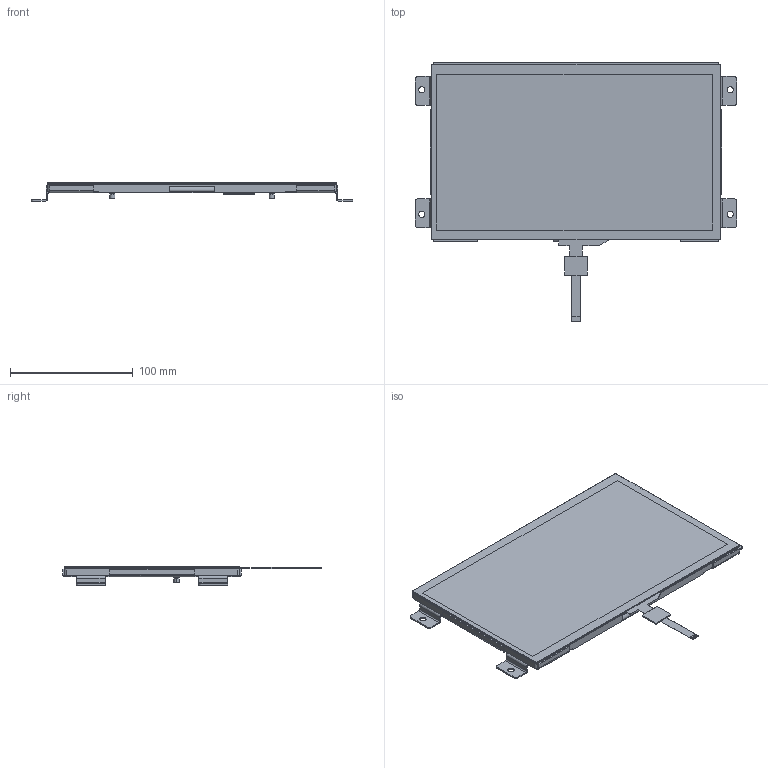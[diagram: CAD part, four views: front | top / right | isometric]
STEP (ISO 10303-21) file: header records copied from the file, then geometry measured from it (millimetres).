
FILE_DESCRIPTION (( 'STEP AP214' ), '1' );
FILE_NAME ('NHD-10.1-1024600MB-xxxx-CTP.STEP', '2018-02-27T20:26:57', ( '' ), ( '' ), 'SwSTEP 2.0', 'SolidWorks 2018', '' );
FILE_SCHEMA (( 'AUTOMOTIVE_DESIGN' ));
Length unit declared in the file: millimetre
Products named in the file (12): BSO4-M3-6; NHD-10.1-B; NHD-10.1-1024600MB-xxxx-CTP; NHD-CTP-10.1; ADS; Sensor; LOCA; Cover; NHD-10.1-1024600AF-LSXV; 541044031; NHD-10.1-1024600AF-Display; NHD-10.1-Mount
Assembly tree (14 placements, depth 3):
  NHD-10.1-1024600MB-xxxx-CTP
    NHD-10.1-Mount
      NHD-10.1-B
      BSO4-M3-6  x4
    NHD-10.1-1024600AF-LSXV
      NHD-10.1-1024600AF-Display
      541044031
    NHD-CTP-10.1
      Cover
      LOCA
      Sensor
      ADS
Bounding box: 261.98 x 210.79 x 14.88 mm (x, y, z)
Volume: 300627.9 mm3; surface area: 409274.5 mm2
Topology: 14 solids, 14 shells, 2092 faces, 6388 edges, 4188 vertices
Faces by surface type: plane 1721, cylinder 353, cone 16, bspline 2
Entity records: 70217 total; most frequent: ORIENTED_EDGE 12388, CARTESIAN_POINT 12358, DIRECTION 10860, EDGE_CURVE 6194, VECTOR 5550, LINE 5550, VERTEX_POINT 4065, AXIS2_PLACEMENT_3D 2655
